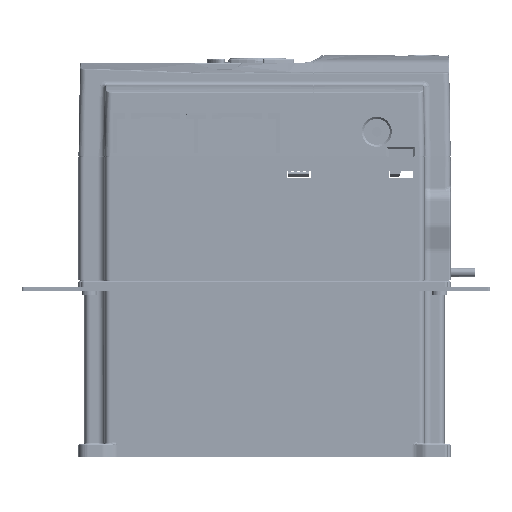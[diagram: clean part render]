
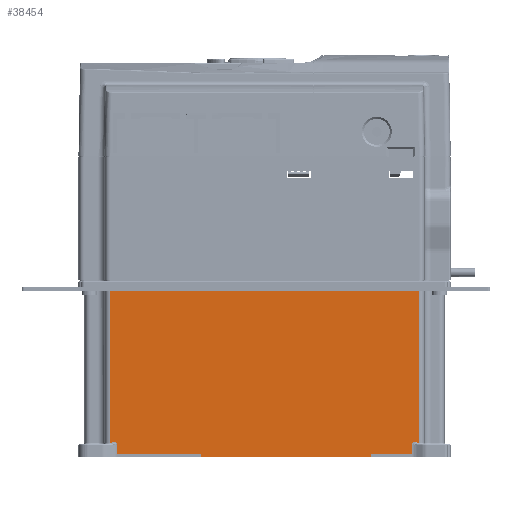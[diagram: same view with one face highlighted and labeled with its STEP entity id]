
A CAD part, left-side view. The second image highlights one B-rep face of the part: STEP entity #38454.
In plain terms, the highlighted planar face has unit normal (-1, 0, 0) as drawn and (1, 0, 0) by its records, which use the part's own axes.
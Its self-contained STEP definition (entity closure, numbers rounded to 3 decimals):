
#76=DIRECTION('',(0.,0.,-1.));
#77=VECTOR('',#76,41.794);
#78=CARTESIAN_POINT('',(60.,74.5,-30.));
#79=LINE('',#78,#77);
#168=DIRECTION('',(0.,0.,-1.));
#169=VECTOR('',#168,20.434);
#170=CARTESIAN_POINT('',(60.,74.5,75.434));
#171=LINE('',#170,#169);
#678=DIRECTION('',(0.,1.,0.));
#679=VECTOR('',#678,1.5);
#680=CARTESIAN_POINT('',(60.,74.5,-30.));
#681=LINE('',#680,#679);
#722=DIRECTION('',(0.,0.,-1.));
#723=VECTOR('',#722,85.);
#724=CARTESIAN_POINT('',(60.,76.,55.));
#725=LINE('',#724,#723);
#9360=DIRECTION('',(0.,-1.,0.));
#9361=VECTOR('',#9360,4.5);
#9362=CARTESIAN_POINT('',(60.,74.5,-71.794));
#9363=LINE('',#9362,#9361);
#9364=CARTESIAN_POINT('',(60.,70.,-71.794));
#9365=CARTESIAN_POINT('',(60.,69.953,-71.794));
#9366=CARTESIAN_POINT('',(60.,69.861,-71.8));
#9367=CARTESIAN_POINT('',(60.,69.725,-71.826));
#9368=CARTESIAN_POINT('',(60.,69.583,-71.872));
#9369=CARTESIAN_POINT('',(60.,69.428,-71.943));
#9370=CARTESIAN_POINT('',(60.,69.263,-72.044));
#9371=CARTESIAN_POINT('',(60.,69.101,-72.17));
#9372=CARTESIAN_POINT('',(60.,68.955,-72.313));
#9373=CARTESIAN_POINT('',(60.,68.826,-72.47));
#9374=CARTESIAN_POINT('',(60.,68.717,-72.638));
#9375=CARTESIAN_POINT('',(60.,68.629,-72.815));
#9376=CARTESIAN_POINT('',(60.,68.561,-73.));
#9377=CARTESIAN_POINT('',(60.,68.515,-73.191));
#9378=CARTESIAN_POINT('',(60.,68.49,-73.387));
#9379=CARTESIAN_POINT('',(60.,68.487,-73.587));
#9380=CARTESIAN_POINT('',(60.,68.508,-73.787));
#9381=CARTESIAN_POINT('',(60.,68.542,-73.954));
#9382=CARTESIAN_POINT('',(60.,68.584,-74.099));
#9383=CARTESIAN_POINT('',(60.,68.63,-74.224));
#9384=CARTESIAN_POINT('',(60.,68.678,-74.332));
#9385=CARTESIAN_POINT('',(60.,68.725,-74.426));
#9386=CARTESIAN_POINT('',(60.,68.77,-74.509));
#9387=CARTESIAN_POINT('',(60.,68.812,-74.583));
#9388=CARTESIAN_POINT('',(60.,68.852,-74.649));
#9389=CARTESIAN_POINT('',(60.,68.888,-74.709));
#9390=CARTESIAN_POINT('',(60.,68.92,-74.765));
#9391=CARTESIAN_POINT('',(60.,68.948,-74.816));
#9392=CARTESIAN_POINT('',(60.,68.971,-74.863));
#9393=CARTESIAN_POINT('',(60.,68.988,-74.908));
#9394=CARTESIAN_POINT('',(60.,68.998,-74.948));
#9395=CARTESIAN_POINT('',(60.,69.,-74.973));
#9396=CARTESIAN_POINT('',(60.,69.,-74.984));
#9398=DIRECTION('',(0.,0.,1.));
#9399=VECTOR('',#9398,0.197);
#9400=CARTESIAN_POINT('',(60.,69.,-75.181));
#9401=LINE('',#9400,#9399);
#9402=DIRECTION('',(0.,-1.,0.));
#9403=VECTOR('',#9402,77.8);
#9404=CARTESIAN_POINT('',(60.,69.,-75.181));
#9405=LINE('',#9404,#9403);
#9406=DIRECTION('',(0.,0.,-1.));
#9407=VECTOR('',#9406,154.);
#9408=CARTESIAN_POINT('',(60.,-8.8,78.819));
#9409=LINE('',#9408,#9407);
#9410=DIRECTION('',(0.,0.,1.));
#9411=VECTOR('',#9410,0.195);
#9412=CARTESIAN_POINT('',(60.,69.,78.624));
#9413=LINE('',#9412,#9411);
#9414=CARTESIAN_POINT('',(60.,69.,78.624));
#9415=CARTESIAN_POINT('',(60.,69.,78.613));
#9416=CARTESIAN_POINT('',(60.,68.998,78.588));
#9417=CARTESIAN_POINT('',(60.,68.988,78.548));
#9418=CARTESIAN_POINT('',(60.,68.971,78.503));
#9419=CARTESIAN_POINT('',(60.,68.948,78.455));
#9420=CARTESIAN_POINT('',(60.,68.92,78.404));
#9421=CARTESIAN_POINT('',(60.,68.887,78.349));
#9422=CARTESIAN_POINT('',(60.,68.852,78.289));
#9423=CARTESIAN_POINT('',(60.,68.812,78.223));
#9424=CARTESIAN_POINT('',(60.,68.77,78.149));
#9425=CARTESIAN_POINT('',(60.,68.725,78.067));
#9426=CARTESIAN_POINT('',(60.,68.678,77.972));
#9427=CARTESIAN_POINT('',(60.,68.631,77.865));
#9428=CARTESIAN_POINT('',(60.,68.585,77.74));
#9429=CARTESIAN_POINT('',(60.,68.542,77.596));
#9430=CARTESIAN_POINT('',(60.,68.508,77.43));
#9431=CARTESIAN_POINT('',(60.,68.487,77.231));
#9432=CARTESIAN_POINT('',(60.,68.49,77.03));
#9433=CARTESIAN_POINT('',(60.,68.515,76.834));
#9434=CARTESIAN_POINT('',(60.,68.561,76.642));
#9435=CARTESIAN_POINT('',(60.,68.628,76.457));
#9436=CARTESIAN_POINT('',(60.,68.716,76.279));
#9437=CARTESIAN_POINT('',(60.,68.825,76.111));
#9438=CARTESIAN_POINT('',(60.,68.954,75.954));
#9439=CARTESIAN_POINT('',(60.,69.1,75.811));
#9440=CARTESIAN_POINT('',(60.,69.262,75.685));
#9441=CARTESIAN_POINT('',(60.,69.427,75.584));
#9442=CARTESIAN_POINT('',(60.,69.583,75.512));
#9443=CARTESIAN_POINT('',(60.,69.725,75.466));
#9444=CARTESIAN_POINT('',(60.,69.86,75.44));
#9445=CARTESIAN_POINT('',(60.,69.953,75.434));
#9446=CARTESIAN_POINT('',(60.,70.,75.434));
#9448=DIRECTION('',(0.,1.,0.));
#9449=VECTOR('',#9448,4.5);
#9450=CARTESIAN_POINT('',(60.,70.,75.434));
#9451=LINE('',#9450,#9449);
#9452=DIRECTION('',(0.,1.,0.));
#9453=VECTOR('',#9452,1.5);
#9454=CARTESIAN_POINT('',(60.,74.5,55.));
#9455=LINE('',#9454,#9453);
#9578=DIRECTION('',(0.,-1.,0.));
#9579=VECTOR('',#9578,77.8);
#9580=CARTESIAN_POINT('',(60.,69.,78.819));
#9581=LINE('',#9580,#9579);
#20802=CARTESIAN_POINT('',(60.,74.5,75.434));
#20804=VERTEX_POINT('',#20802);
#20883=CARTESIAN_POINT('',(60.,-8.8,78.819));
#20884=CARTESIAN_POINT('',(60.,-8.8,-75.181));
#20885=VERTEX_POINT('',#20883);
#20886=VERTEX_POINT('',#20884);
#20947=CARTESIAN_POINT('',(60.,74.5,-71.794));
#20948=VERTEX_POINT('',#20947);
#21005=CARTESIAN_POINT('',(60.,76.,55.));
#21006=CARTESIAN_POINT('',(60.,76.,-30.));
#21007=VERTEX_POINT('',#21005);
#21008=VERTEX_POINT('',#21006);
#21019=CARTESIAN_POINT('',(60.,74.5,55.));
#21020=VERTEX_POINT('',#21019);
#21021=CARTESIAN_POINT('',(60.,74.5,-30.));
#21022=VERTEX_POINT('',#21021);
#23728=CARTESIAN_POINT('',(60.,69.,78.819));
#23729=VERTEX_POINT('',#23728);
#23730=CARTESIAN_POINT('',(60.,69.,-75.181));
#23731=CARTESIAN_POINT('',(60.,69.,-74.984));
#23732=VERTEX_POINT('',#23730);
#23733=VERTEX_POINT('',#23731);
#23784=CARTESIAN_POINT('',(60.,70.,75.434));
#23785=VERTEX_POINT('',#23784);
#23796=VERTEX_POINT('',#9414);
#23851=CARTESIAN_POINT('',(60.,70.,-71.794));
#23852=VERTEX_POINT('',#23851);
#38428=CARTESIAN_POINT('',(60.,0.,78.819));
#38429=DIRECTION('',(1.,0.,0.));
#38430=DIRECTION('',(0.,0.,-1.));
#38431=AXIS2_PLACEMENT_3D('',#38428,#38429,#38430);
#38432=PLANE('',#38431);
#38434=ORIENTED_EDGE('',*,*,#38433,.T.);
#38435=ORIENTED_EDGE('',*,*,#38418,.T.);
#38437=ORIENTED_EDGE('',*,*,#38436,.F.);
#38439=ORIENTED_EDGE('',*,*,#38438,.T.);
#38440=ORIENTED_EDGE('',*,*,#30455,.F.);
#38442=ORIENTED_EDGE('',*,*,#38441,.F.);
#38443=ORIENTED_EDGE('',*,*,#27631,.F.);
#38444=ORIENTED_EDGE('',*,*,#28059,.T.);
#38445=ORIENTED_EDGE('',*,*,#28076,.T.);
#38446=ORIENTED_EDGE('',*,*,#26238,.T.);
#38448=ORIENTED_EDGE('',*,*,#38447,.T.);
#38449=ORIENTED_EDGE('',*,*,#26597,.T.);
#38450=ORIENTED_EDGE('',*,*,#26549,.F.);
#38451=ORIENTED_EDGE('',*,*,#26178,.T.);
#38452=EDGE_LOOP('',(#38434,#38435,#38437,#38439,#38440,#38442,#38443,#38444,
#38445,#38446,#38448,#38449,#38450,#38451));
#38453=FACE_OUTER_BOUND('',#38452,.F.);
#9397=B_SPLINE_CURVE_WITH_KNOTS('',3,(#9364,#9365,#9366,#9367,#9368,#9369,#9370,
#9371,#9372,#9373,#9374,#9375,#9376,#9377,#9378,#9379,#9380,#9381,#9382,#9383,
#9384,#9385,#9386,#9387,#9388,#9389,#9390,#9391,#9392,#9393,#9394,#9395,#9396),
.UNSPECIFIED.,.F.,.F.,(4,1,1,1,1,1,1,1,1,1,1,1,1,1,1,1,1,1,1,1,1,1,1,1,1,1,1,1,
1,1,4),(0.,0.033,0.067,0.1,0.133,
0.167,0.2,0.233,0.267,0.3,
0.333,0.367,0.4,0.433,0.467,
0.5,0.533,0.567,0.6,0.633,
0.667,0.7,0.733,0.767,0.8,
0.833,0.867,0.9,0.933,0.967,
1.),.UNSPECIFIED.);
#9447=B_SPLINE_CURVE_WITH_KNOTS('',3,(#9414,#9415,#9416,#9417,#9418,#9419,#9420,
#9421,#9422,#9423,#9424,#9425,#9426,#9427,#9428,#9429,#9430,#9431,#9432,#9433,
#9434,#9435,#9436,#9437,#9438,#9439,#9440,#9441,#9442,#9443,#9444,#9445,#9446),
.UNSPECIFIED.,.F.,.F.,(4,1,1,1,1,1,1,1,1,1,1,1,1,1,1,1,1,1,1,1,1,1,1,1,1,1,1,1,
1,1,4),(0.,0.033,0.067,0.1,0.133,
0.167,0.2,0.233,0.267,0.3,
0.333,0.367,0.4,0.433,0.467,
0.5,0.533,0.567,0.6,0.633,
0.667,0.7,0.733,0.767,0.8,
0.833,0.867,0.9,0.933,0.967,
1.),.UNSPECIFIED.);
#26178=EDGE_CURVE('',#21022,#20948,#79,.T.);
#26238=EDGE_CURVE('',#20804,#21020,#171,.T.);
#26549=EDGE_CURVE('',#21022,#21008,#681,.T.);
#26597=EDGE_CURVE('',#21007,#21008,#725,.T.);
#27631=EDGE_CURVE('',#23796,#23729,#9413,.T.);
#28059=EDGE_CURVE('',#23796,#23785,#9447,.T.);
#28076=EDGE_CURVE('',#23785,#20804,#9451,.T.);
#30455=EDGE_CURVE('',#20885,#20886,#9409,.T.);
#38418=EDGE_CURVE('',#23852,#23733,#9397,.T.);
#38433=EDGE_CURVE('',#20948,#23852,#9363,.T.);
#38436=EDGE_CURVE('',#23732,#23733,#9401,.T.);
#38438=EDGE_CURVE('',#23732,#20886,#9405,.T.);
#38441=EDGE_CURVE('',#23729,#20885,#9581,.T.);
#38447=EDGE_CURVE('',#21020,#21007,#9455,.T.);
#38454=ADVANCED_FACE('',(#38453),#38432,.T.);
